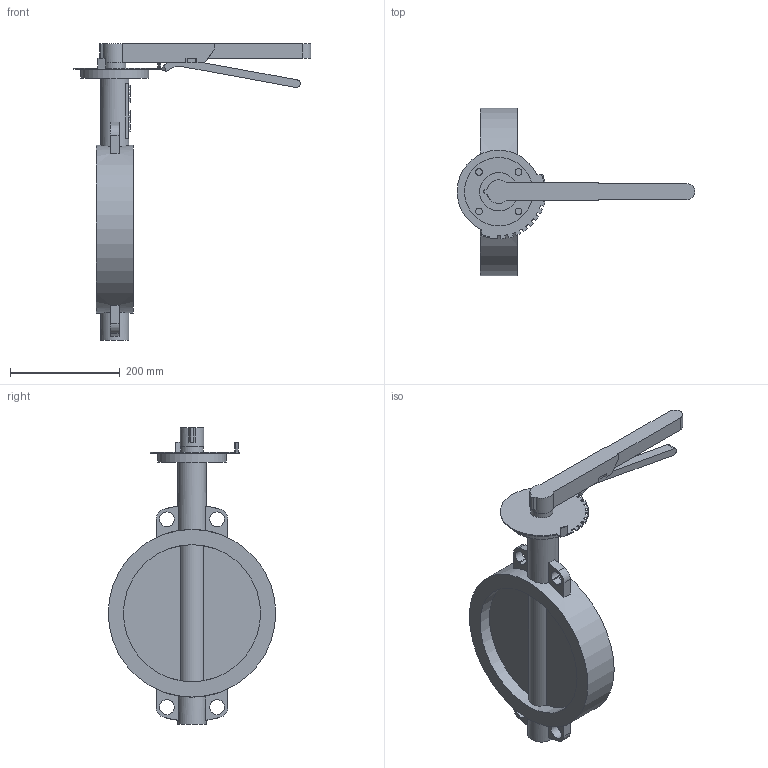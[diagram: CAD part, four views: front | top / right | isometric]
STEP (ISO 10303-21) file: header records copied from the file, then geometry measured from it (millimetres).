
FILE_DESCRIPTION(('STEP AP203'), '1');
FILE_NAME('Çàòâîð 017W.Z(÷óãóí) DN250 PN10_16 ðóêîÿòêà', '', ('UNSPECIFIED'), ('UNSPECIFIED'), 'ASCON STEP Converter 1.6', 'ASCON Math Kernel', '');
FILE_SCHEMA(('CONFIG_CONTROL_DESIGN'));
Length unit declared in the file: millimetre
Bounding box: 433.97 x 306 x 542 mm (x, y, z)
Volume: 482185.4 mm3; surface area: 436133.6 mm2
Topology: 1 solids, 4 shells, 895 faces, 2663 edges, 1719 vertices
Faces by surface type: cylinder 655, plane 240
Full cylindrical faces by diameter (mm): 12 x4, 28.6 x1, 41 x1, 52 x2, 70 x1, 125 x1, 250.4 x2, 306 x1
Entity records: 38410 total; most frequent: CARTESIAN_POINT 5947, DIRECTION 5803, ORIENTED_EDGE 5224, EDGE_CURVE 2651, AXIS2_PLACEMENT_3D 2277, VERTEX_POINT 1719, CIRCLE 1382, LINE 1249
